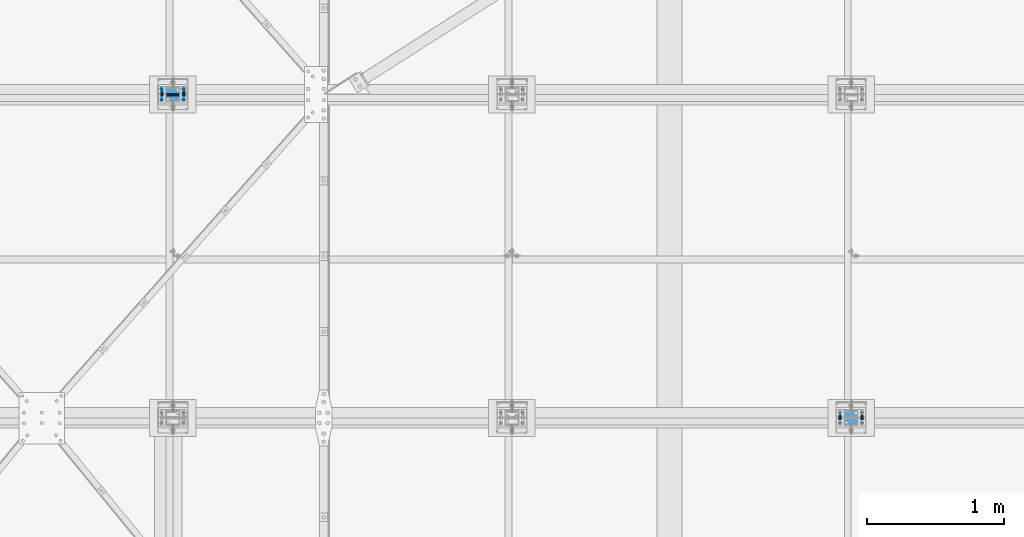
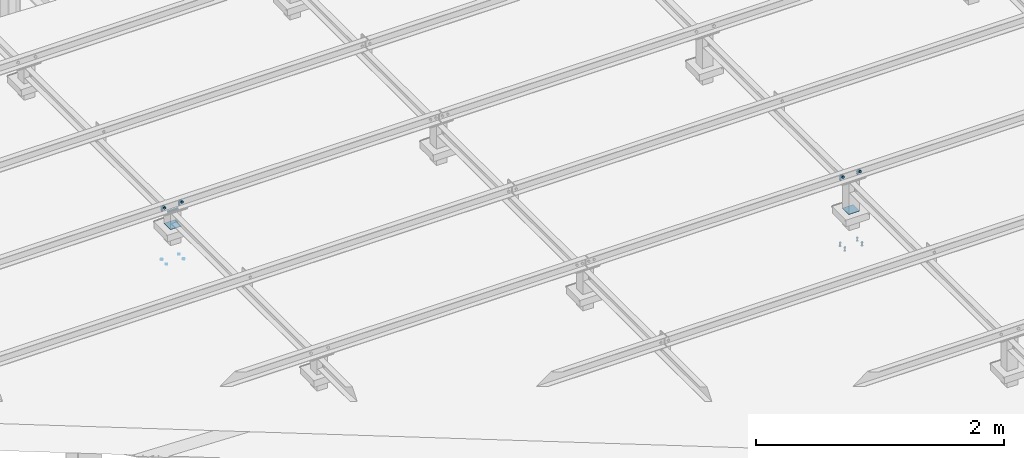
# One storey, part 329 of 3134: 9 mechanical fasteners, 6 elements without a shape of their own.
"""IFC2X3 building model written with IfcOpenShell, lengths in millimetres."""

import ifcopenshell
import ifcopenshell.guid

model = None  # the IFC model being written
_history = None  # IfcOwnerHistory: only IFC2X3 demands one
_inside = {}  # id of a spatial element -> (the spatial element, [elements in it])
_under = {}  # id of a project, library or spatial element -> (it, [spatial elements below it])
_declared = {}  # id of a project -> (the project, [libraries it declares])
_typed = {}  # id of a type object -> (the type object, [elements of that type])
_made_of = {}  # id of a material, layer set ... -> (it, [elements and type objects made of it])


def new_model(schema):
    """Start an empty IFC model of exactly this schema.

    Asked for "IFC4X3", IfcOpenShell would pick the latest addendum, in which some entities
    have other attributes; the version numbers below select the first issue.
    IFC2X3 requires an IfcOwnerHistory on every rooted entity: one is made here for all.
    """
    global model, _history
    if schema == "IFC4X3":
        model = ifcopenshell.file(schema_version=(4, 3, 0, 0))
    else:
        model = ifcopenshell.file(schema=schema)
    _inside.clear()
    _under.clear()
    _declared.clear()
    _typed.clear()
    _made_of.clear()
    _history = None
    if model.schema == "IFC2X3":
        org = make("IfcOrganization", Name="unknown")
        user = make(
            "IfcPersonAndOrganization",
            ThePerson=make("IfcPerson", FamilyName="unknown"),
            TheOrganization=org,
        )
        app = make(
            "IfcApplication",
            ApplicationDeveloper=org,
            Version="unknown",
            ApplicationFullName="unknown",
            ApplicationIdentifier="unknown",
        )
        _history = make(
            "IfcOwnerHistory",
            OwningUser=user,
            OwningApplication=app,
            ChangeAction="ADDED",
            CreationDate=0,
        )
    return model


def make(cls, **values):
    """One entity of the class cls with the attributes given. An attribute that is None is left unset."""
    return model.create_entity(
        cls, **{name: value for name, value in values.items() if value is not None}
    )


def rooted(cls, **values):
    """An entity with a GlobalId (a new one), such as an element, a storey or a relation."""
    return make(cls, GlobalId=ifcopenshell.guid.new(), OwnerHistory=_history, **values)


def si_unit(unit_type, name, prefix=None):
    """IfcSIUnit, for example si_unit("LENGTHUNIT", "METRE", prefix="MILLI")."""
    return make("IfcSIUnit", UnitType=unit_type, Prefix=prefix, Name=name)


def assignment(units):
    """IfcUnitAssignment: the units of a project."""
    return None if units is None else make("IfcUnitAssignment", Units=units)


def point(xyz):
    """IfcCartesianPoint."""
    return None if xyz is None else make("IfcCartesianPoint", Coordinates=xyz)


def direction(xyz):
    """IfcDirection."""
    return None if xyz is None else make("IfcDirection", DirectionRatios=xyz)


def frame(location, z_axis=None, x_axis=None):
    """IfcAxis2Placement3D, a coordinate frame: its origin and axes. An axis left out is left unset."""
    return make(
        "IfcAxis2Placement3D",
        Location=point(location),
        Axis=direction(z_axis),
        RefDirection=direction(x_axis),
    )


def origin_with_axes():
    """The frame at (0, 0, 0) with the z axis (0, 0, 1) and the x axis (1, 0, 0) written out."""
    return frame((0.0, 0.0, 0.0), z_axis=(0.0, 0.0, 1.0), x_axis=(1.0, 0.0, 0.0))


def place(relative_to, where):
    """IfcLocalPlacement: puts the frame where relative to a parent placement (None: the world)."""
    return make(
        "IfcLocalPlacement", PlacementRelTo=relative_to, RelativePlacement=where
    )


def context(
    kind, dimensions, precision=None, world=None, true_north=None, identifier=None
):
    """IfcGeometricRepresentationContext, for example the 3D "Model" context."""
    return make(
        "IfcGeometricRepresentationContext",
        ContextIdentifier=identifier,
        ContextType=kind,
        CoordinateSpaceDimension=dimensions,
        Precision=precision,
        WorldCoordinateSystem=world,
        TrueNorth=true_north,
    )


def subcontext(parent, identifier, kind, view, scale=None):
    """IfcGeometricRepresentationSubContext, for example "Body" below "Model"."""
    return make(
        "IfcGeometricRepresentationSubContext",
        ContextIdentifier=identifier,
        ContextType=kind,
        ParentContext=parent,
        TargetScale=scale,
        TargetView=view,
    )


def project(units=None, contexts=None):
    """IfcProject with its units and contexts."""
    return rooted(
        "IfcProject",
        Name="project",
        RepresentationContexts=contexts,
        UnitsInContext=assignment(units),
    )


def spatial(cls, under=None, at=None, **own):
    """A site, building, storey or space (cls), placed at a placement, below another one or the project."""
    s = rooted(cls, ObjectPlacement=at, **own)
    if under is not None:
        _under.setdefault(under.id(), (under, []))[1].append(s)
    return s


def faces_of(points, faces, orient=None, outer=None):
    """IfcFace entities. A face is a list of loops; a loop is a list of indices into points, from 0.

    orient and outer hold one flag for each loop. By default every Orientation is true, the
    first loop of a face is its IfcFaceOuterBound and the others are IfcFaceBound.
    """
    made = []
    for i, loops in enumerate(faces):
        bounds = []
        for j, loop in enumerate(loops):
            is_outer = j == 0 if outer is None else outer[i][j]
            bounds.append(
                make(
                    "IfcFaceOuterBound" if is_outer else "IfcFaceBound",
                    Bound=make("IfcPolyLoop", Polygon=[points[k] for k in loop]),
                    Orientation=True if orient is None else orient[i][j],
                )
            )
        made.append(make("IfcFace", Bounds=bounds))
    return made


def faceted_brep(points, faces, orient=None, outer=None, voids=None):
    """IfcFacetedBrep: a solid bounded by flat faces; with voids (closed shells), ...WithVoids."""
    shared = [point(p) for p in points]
    hull = make("IfcClosedShell", CfsFaces=faces_of(shared, faces, orient, outer))
    if voids is None:
        return make("IfcFacetedBrep", Outer=hull)
    return make(
        "IfcFacetedBrepWithVoids",
        Outer=hull,
        Voids=[
            make(cls, CfsFaces=faces_of(shared, fs, o, b)) for cls, fs, o, b in voids
        ],
    )


def shape(context_of_items, identifier, shape_type, items):
    """IfcShapeRepresentation: the items that make up one representation, for example the "Body"."""
    return make(
        "IfcShapeRepresentation",
        ContextOfItems=context_of_items,
        RepresentationIdentifier=identifier,
        RepresentationType=shape_type,
        Items=items,
    )


def source(mapping_origin, context_of_items, identifier, shape_type, items):
    """IfcRepresentationMap: a shape defined once, which mapped items show again and again."""
    return make(
        "IfcRepresentationMap",
        MappingOrigin=mapping_origin,
        MappedRepresentation=shape(context_of_items, identifier, shape_type, items),
    )


def transform(
    local_origin,
    x_axis=None,
    y_axis=None,
    z_axis=None,
    scale=None,
    scale2=None,
    scale3=None,
    uniform=True,
):
    """IfcCartesianTransformationOperator3D, or its non-uniform kind. x_axis, y_axis, z_axis: its Axis1, 2, 3."""
    if uniform:
        return make(
            "IfcCartesianTransformationOperator3D",
            Axis1=direction(x_axis),
            Axis2=direction(y_axis),
            LocalOrigin=point(local_origin),
            Scale=scale,
            Axis3=direction(z_axis),
        )
    return make(
        "IfcCartesianTransformationOperator3DnonUniform",
        Axis1=direction(x_axis),
        Axis2=direction(y_axis),
        LocalOrigin=point(local_origin),
        Scale=scale,
        Axis3=direction(z_axis),
        Scale2=scale2,
        Scale3=scale3,
    )


def mapped(mapping_source, mapping_target):
    """IfcMappedItem: shows the shape of a source again, moved by a transform."""
    return make(
        "IfcMappedItem", MappingSource=mapping_source, MappingTarget=mapping_target
    )


def material(Name=None, Category=None):
    """IfcMaterial."""
    return make("IfcMaterial", Name=Name, Category=Category)


def made_of(thing, what):
    """Note that an element or type object is made of a material, layer set ...; save() writes the relation."""
    if what is not None:
        _made_of.setdefault(what.id(), (what, []))[1].append(thing)
    return thing


def type_object(cls, material=None, **own):
    """A type object (cls), such as IfcWallType, which elements share."""
    return made_of(rooted(cls, **own), material)


def element(
    cls,
    number,
    at=None,
    inside=None,
    cuts=None,
    type_object=None,
    material=None,
    context=None,
    identifier="Body",
    shape_type=None,
    held_by="IfcProductDefinitionShape",
    body=None,
    shapes=None,
    **own,
):
    """One element of the class cls, such as IfcWall. Its Tag is "e" and its number.

    at: its placement. inside: the storey or other place that contains it. cuts: it is an
    opening in that element (IfcRelVoidsElement). A single representation is given by context,
    identifier, shape_type and body (its items); several are given by shapes. held_by: the class
    of the entity that holds the representations. save() writes the other relations.
    """
    e = rooted(cls, Tag="e%d" % number, ObjectPlacement=at, **own)
    if body is not None:
        shapes = [shape(context, identifier, shape_type, body)]
    if shapes is not None:
        e.Representation = make(held_by, Representations=shapes)
    if inside is not None:
        _inside.setdefault(inside.id(), (inside, []))[1].append(e)
    if cuts is not None:
        rooted(
            "IfcRelVoidsElement", RelatingBuildingElement=cuts, RelatedOpeningElement=e
        )
    if type_object is not None:
        _typed.setdefault(type_object.id(), (type_object, []))[1].append(e)
    return made_of(e, material)


def aggregate(whole, parts):
    """IfcRelAggregates: a whole, such as a stair, and the parts it consists of."""
    return rooted("IfcRelAggregates", RelatingObject=whole, RelatedObjects=parts)


def save(model, path):
    """Write the relations noted so far, then the file.

    IfcRelAggregates (storeys below a building ...), IfcRelContainedInSpatialStructure (elements
    in a storey), IfcRelDefinesByType, IfcRelAssociatesMaterial and IfcRelDeclares: one each for
    every whole, place, type object, material and project.
    """
    for whole, parts in _under.values():
        aggregate(whole, parts)
    for where, things in _inside.values():
        rooted(
            "IfcRelContainedInSpatialStructure",
            RelatedElements=things,
            RelatingStructure=where,
        )
    for kind, things in _typed.values():
        rooted("IfcRelDefinesByType", RelatedObjects=things, RelatingType=kind)
    for what, things in _made_of.values():
        rooted("IfcRelAssociatesMaterial", RelatedObjects=things, RelatingMaterial=what)
    for by, libraries in _declared.values():
        rooted("IfcRelDeclares", RelatingContext=by, RelatedDefinitions=libraries)
    model.write(path)


model = new_model("IFC2X3")

# Units and contexts
model_context = context("Model", 3, precision=1e-05, world=origin_with_axes())
body_context = subcontext(model_context, "Body", "Model", "MODEL_VIEW")
ifc_project = project(units=[si_unit("LENGTHUNIT", "METRE", prefix="MILLI"), si_unit("AREAUNIT", "SQUARE_METRE"), si_unit("VOLUMEUNIT", "CUBIC_METRE"), si_unit("MASSUNIT", "GRAM", prefix="KILO"), si_unit("TIMEUNIT", "SECOND"), si_unit("PLANEANGLEUNIT", "RADIAN"), si_unit("SOLIDANGLEUNIT", "STERADIAN"), si_unit("THERMODYNAMICTEMPERATUREUNIT", "DEGREE_CELSIUS"), si_unit("LUMINOUSINTENSITYUNIT", "LUMEN")], contexts=[model_context])

# Site, building, storey
site_placement = place(None, origin_with_axes())
site = spatial("IfcSite", under=ifc_project, at=site_placement, CompositionType="ELEMENT")
building_placement = place(site_placement, origin_with_axes())
building = spatial("IfcBuilding", under=site, at=building_placement, Name="Undefined", CompositionType="ELEMENT")
storey_placement = place(building_placement, origin_with_axes())
storey = spatial("IfcBuildingStorey", under=building, at=storey_placement, Name="Undefined", CompositionType="ELEMENT", Elevation=0.0)

# Assembly, mechanical fastener
assembly_1_placement = place(storey_placement, origin_with_axes())
assembly_1 = element("IfcElementAssembly", 1, at=assembly_1_placement, inside=storey, AssemblyPlace="NOTDEFINED", PredefinedType="RIGID_FRAME")
ifc_material_1 = material(Name="8.8")
mechanical_fastener_type = type_object("IfcMechanicalFastenerType", Name="Bolt assembly")
shared_shape_1 = source(origin_with_axes(), body_context, "Body", "Brep", [
    faceted_brep([(10.9696551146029, -14.0, 0.0), (5.48482755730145, -14.0, 9.5), (-5.48482755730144, -14.0, 9.5), (-10.9696551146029, -14.0, 1.34339530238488e-15), (-5.48482755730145, -14.0, -9.5), (5.48482755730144, -14.0, -9.50000000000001), (5.48482755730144, -6.0, -9.50000000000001), (-5.48482755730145, -6.0, -9.5), (-10.9696551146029, -6.0, 1.34339530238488e-15), (-5.48482755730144, -6.0, 9.5), (5.48482755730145, -6.0, 9.5), (10.9696551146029, -6.0, 0.0), (6.0, -6.0, 0.0), (5.19615242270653, -6.0, 3.00000000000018), (2.99999999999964, -6.0, 5.19615242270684), (-6.21801588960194e-13, -6.0, 6.0), (-3.00000000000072, -6.0, 5.19615242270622), (-5.19615242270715, -6.0, 2.9999999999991), (-6.0, -6.0, -1.24360317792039e-12), (-5.19615242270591, -6.0, -3.00000000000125), (-2.99999999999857, -6.0, -5.19615242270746), (1.85874342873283e-12, -6.0, -6.0), (3.00000000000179, -6.0, -5.1961524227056), (5.19615242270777, -6.0, -2.99999999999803), (5.19615242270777, 24.0, -2.99999999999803), (3.00000000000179, 24.0, -5.1961524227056), (1.85874342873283e-12, 24.0, -6.0), (-2.99999999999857, 24.0, -5.19615242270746), (-5.19615242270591, 24.0, -3.00000000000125), (-6.0, 24.0, -1.24360317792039e-12), (-5.19615242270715, 24.0, 2.9999999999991), (-3.00000000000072, 24.0, 5.19615242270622), (-6.21801588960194e-13, 24.0, 6.0), (2.99999999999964, 24.0, 5.19615242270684), (5.19615242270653, 24.0, 3.00000000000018), (6.0, 24.0, 0.0), (10.9696551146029, 6.00000000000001, 0.0), (5.48482755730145, 6.00000000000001, 9.5), (-5.48482755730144, 6.00000000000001, 9.5), (-10.9696551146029, 6.00000000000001, 1.34339530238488e-15), (-5.48482755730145, 6.00000000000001, -9.5), (5.48482755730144, 6.00000000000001, -9.50000000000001), (5.48482755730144, 16.0, -9.50000000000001), (-5.48482755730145, 16.0, -9.5), (-10.9696551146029, 16.0, 1.34339530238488e-15), (-5.48482755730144, 16.0, 9.5), (5.48482755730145, 16.0, 9.5), (10.9696551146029, 16.0, 0.0)], [[[0, 1, 2, 3, 4, 5]], [[6, 7, 8, 9, 10, 11]], [[0, 11, 10, 1]], [[1, 10, 9, 2]], [[2, 9, 8, 3]], [[3, 8, 7, 4]], [[4, 7, 6, 5]], [[5, 6, 11, 0]], [[12, 13, 14, 15, 16, 17, 18, 19, 20, 21, 22, 23]], [[24, 25, 26, 27, 28, 29, 30, 31, 32, 33, 34, 35]], [[12, 35, 34, 13]], [[13, 34, 33, 14]], [[14, 33, 32, 15]], [[15, 32, 31, 16]], [[16, 31, 30, 17]], [[17, 30, 29, 18]], [[18, 29, 28, 19]], [[19, 28, 27, 20]], [[20, 27, 26, 21]], [[21, 26, 25, 22]], [[22, 25, 24, 23]], [[23, 24, 35, 12]], [[36, 37, 38, 39, 40, 41]], [[42, 43, 44, 45, 46, 47]], [[36, 47, 46, 37]], [[37, 46, 45, 38]], [[38, 45, 44, 39]], [[39, 44, 43, 40]], [[40, 43, 42, 41]], [[41, 42, 47, 36]]]),
    faceted_brep([(7.0, -0.1, 0.0), (6.06217782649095, -0.1, 3.50000000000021), (3.49999999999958, -0.1, 6.06217782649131), (-7.25435187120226e-13, -0.1, 7.0), (-3.50000000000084, -0.1, 6.06217782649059), (-6.06217782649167, -0.1, 3.49999999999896), (-7.0, -0.1, -1.45087037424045e-12), (-6.06217782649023, -0.1, -3.50000000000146), (-3.49999999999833, -0.1, -6.06217782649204), (2.1685340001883e-12, -0.1, -7.0), (3.50000000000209, -0.1, -6.06217782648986), (6.0621778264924, -0.1, -3.4999999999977), (6.0621778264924, 6.00000000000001, -3.4999999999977), (3.50000000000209, 6.00000000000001, -6.06217782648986), (2.1685340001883e-12, 6.00000000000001, -7.0), (-3.49999999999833, 6.00000000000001, -6.06217782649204), (-6.06217782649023, 6.00000000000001, -3.50000000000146), (-7.0, 6.00000000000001, -1.45087037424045e-12), (-6.06217782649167, 6.00000000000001, 3.49999999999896), (-3.50000000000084, 6.00000000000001, 6.06217782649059), (-7.25435187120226e-13, 6.00000000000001, 7.0), (3.49999999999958, 6.00000000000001, 6.06217782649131), (6.06217782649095, 6.00000000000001, 3.50000000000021), (7.0, 6.00000000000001, 0.0), (7.0, -5.9, 0.0), (6.06217782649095, -5.9, 3.50000000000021), (3.49999999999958, -5.9, 6.06217782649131), (-7.25435187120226e-13, -5.9, 7.0), (-3.50000000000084, -5.9, 6.06217782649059), (-6.06217782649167, -5.9, 3.49999999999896), (-7.0, -5.9, -1.45087037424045e-12), (-6.06217782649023, -5.9, -3.50000000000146), (-3.49999999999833, -5.9, -6.06217782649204), (2.1685340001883e-12, -5.9, -7.0), (3.50000000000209, -5.9, -6.06217782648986), (6.0621778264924, -5.9, -3.4999999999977), (6.0621778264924, 0.0999999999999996, -3.4999999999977), (3.50000000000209, 0.0999999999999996, -6.06217782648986), (2.1685340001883e-12, 0.0999999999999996, -7.0), (-3.49999999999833, 0.0999999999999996, -6.06217782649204), (-6.06217782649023, 0.0999999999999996, -3.50000000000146), (-7.0, 0.0999999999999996, -1.45087037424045e-12), (-6.06217782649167, 0.0999999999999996, 3.49999999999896), (-3.50000000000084, 0.0999999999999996, 6.06217782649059), (-7.25435187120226e-13, 0.0999999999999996, 7.0), (3.49999999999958, 0.0999999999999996, 6.06217782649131), (6.06217782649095, 0.0999999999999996, 3.50000000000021), (7.0, 0.0999999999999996, 0.0)], [[[0, 1, 2, 3, 4, 5, 6, 7, 8, 9, 10, 11]], [[12, 13, 14, 15, 16, 17, 18, 19, 20, 21, 22, 23]], [[0, 23, 22, 1]], [[1, 22, 21, 2]], [[2, 21, 20, 3]], [[3, 20, 19, 4]], [[4, 19, 18, 5]], [[5, 18, 17, 6]], [[6, 17, 16, 7]], [[7, 16, 15, 8]], [[8, 15, 14, 9]], [[9, 14, 13, 10]], [[10, 13, 12, 11]], [[11, 12, 23, 0]], [[24, 25, 26, 27, 28, 29, 30, 31, 32, 33, 34, 35]], [[36, 37, 38, 39, 40, 41, 42, 43, 44, 45, 46, 47]], [[24, 47, 46, 25]], [[25, 46, 45, 26]], [[26, 45, 44, 27]], [[27, 44, 43, 28]], [[28, 43, 42, 29]], [[29, 42, 41, 30]], [[30, 41, 40, 31]], [[31, 40, 39, 32]], [[32, 39, 38, 33]], [[33, 38, 37, 34]], [[34, 37, 36, 35]], [[35, 36, 47, 24]]]),
])
mechanical_fastener_1_placement = place(assembly_1_placement, frame((70600.0, 10045.0, 5850.0), z_axis=(1.0, 0.0, 0.0), x_axis=(0.0, -1.0, 0.0)))
mechanical_fastener_1 = element("IfcMechanicalFastener", 2, at=mechanical_fastener_1_placement, type_object=mechanical_fastener_type, material=ifc_material_1, Name="Bolt assembly", NominalDiameter=12.0, NominalLength=30.0, context=body_context, shape_type="MappedRepresentation", body=[
    mapped(shared_shape_1, transform((0.0, -5.32963895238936e-10, -79.9999999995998))),
    mapped(shared_shape_1, transform((0.0, 5.3114490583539e-10, 79.9999999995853))),
])

assembly_2_placement = place(storey_placement, origin_with_axes())
assembly_2 = element("IfcElementAssembly", 3, at=assembly_2_placement, inside=storey, AssemblyPlace="NOTDEFINED", PredefinedType="RIGID_FRAME")
mechanical_fastener_2_placement = place(assembly_2_placement, frame((75550.0, 7685.0, 5850.0), z_axis=(1.0, 0.0, 0.0), x_axis=(0.0, -1.0, 0.0)))
mechanical_fastener_2 = element("IfcMechanicalFastener", 4, at=mechanical_fastener_2_placement, type_object=mechanical_fastener_type, material=ifc_material_1, Name="Bolt assembly", NominalDiameter=12.0, NominalLength=30.0, context=body_context, shape_type="MappedRepresentation", body=[
    mapped(shared_shape_1, transform((0.0, -5.32963895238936e-10, -79.9999999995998))),
    mapped(shared_shape_1, transform((0.0, 5.3114490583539e-10, 79.9999999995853))),
])

assembly_3_placement = place(storey_placement, origin_with_axes())
assembly_3 = element("IfcElementAssembly", 5, at=assembly_3_placement, inside=storey, AssemblyPlace="NOTDEFINED", PredefinedType="RIGID_FRAME")
shared_shape_2 = source(origin_with_axes(), body_context, "Body", "Brep", [
    faceted_brep([(7.0, 13.0000253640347, 0.0), (6.06217782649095, 13.0000253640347, 3.50000000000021), (3.49999999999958, 13.0000253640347, 6.06217782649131), (-7.25435187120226e-13, 13.0000253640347, 7.0), (-3.50000000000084, 13.0000253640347, 6.06217782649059), (-6.06217782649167, 13.0000253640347, 3.49999999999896), (-7.0, 13.0000253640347, -1.45087037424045e-12), (-6.06217782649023, 13.0000253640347, -3.50000000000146), (-3.49999999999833, 13.0000253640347, -6.06217782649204), (2.1685340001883e-12, 13.0000253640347, -7.0), (3.50000000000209, 13.0000253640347, -6.06217782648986), (6.0621778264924, 13.0000253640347, -3.4999999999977), (6.0621778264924, 15.0999999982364, -3.4999999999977), (3.50000000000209, 15.0999999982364, -6.06217782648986), (2.1685340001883e-12, 15.0999999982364, -7.0), (-3.49999999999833, 15.0999999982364, -6.06217782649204), (-6.06217782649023, 15.0999999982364, -3.50000000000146), (-7.0, 15.0999999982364, -1.45087037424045e-12), (-6.06217782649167, 15.0999999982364, 3.49999999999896), (-3.50000000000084, 15.0999999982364, 6.06217782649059), (-7.25435187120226e-13, 15.0999999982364, 7.0), (3.49999999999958, 15.0999999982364, 6.06217782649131), (6.06217782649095, 15.0999999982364, 3.50000000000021), (7.0, 15.0999999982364, 0.0)], [[[0, 1, 2, 3, 4, 5, 6, 7, 8, 9, 10, 11]], [[12, 13, 14, 15, 16, 17, 18, 19, 20, 21, 22, 23]], [[0, 23, 22, 1]], [[1, 22, 21, 2]], [[2, 21, 20, 3]], [[3, 20, 19, 4]], [[4, 19, 18, 5]], [[5, 18, 17, 6]], [[6, 17, 16, 7]], [[7, 16, 15, 8]], [[8, 15, 14, 9]], [[9, 14, 13, 10]], [[10, 13, 12, 11]], [[11, 12, 23, 0]]]),
])
mechanical_fastener_3_placement = place(assembly_3_placement, frame((70599.3451187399, 10048.0, 5332.4572055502), z_axis=(-0.99951962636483, 0.0, 0.0309922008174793), x_axis=(0.0, -1.0, 0.0)))
mechanical_fastener_3 = element("IfcMechanicalFastener", 6, at=mechanical_fastener_3_placement, type_object=mechanical_fastener_type, material=ifc_material_1, Name="Bolt assembly", NominalDiameter=12.0, NominalLength=2.0, context=body_context, shape_type="MappedRepresentation", body=[
    mapped(shared_shape_2, transform((0.0, -5.32963895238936e-10, -79.9999999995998))),
    mapped(shared_shape_2, transform((76.0, -5.32963895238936e-10, -79.9999999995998))),
    mapped(shared_shape_2, transform((0.0, 5.3114490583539e-10, 79.9999999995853))),
    mapped(shared_shape_2, transform((76.0, 5.3114490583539e-10, 79.9999999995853))),
])
aggregate(assembly_3, [mechanical_fastener_3])

# Assembly, mechanical fasteners
assembly_4_placement = place(storey_placement, origin_with_axes())
assembly_4 = element("IfcElementAssembly", 7, at=assembly_4_placement, inside=storey, AssemblyPlace="NOTDEFINED", PredefinedType="RIGID_FRAME")
shared_shape_3 = source(origin_with_axes(), body_context, "Body", "Brep", [
    faceted_brep([(9.0, -50.0, 0.0), (7.79422863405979, -50.0, 4.50000000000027), (4.49999999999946, -50.0, 7.79422863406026), (-9.3270238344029e-13, -50.0, 9.0), (-4.50000000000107, -50.0, 7.79422863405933), (-7.79422863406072, -50.0, 4.49999999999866), (-9.0, -50.0, -1.86540476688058e-12), (-7.79422863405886, -50.0, -4.50000000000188), (-4.49999999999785, -50.0, -7.79422863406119), (2.78811514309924e-12, -50.0, -9.0), (4.50000000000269, -50.0, -7.7942286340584), (7.79422863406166, -50.0, -4.49999999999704), (7.79422863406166, 50.1, -4.49999999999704), (4.50000000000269, 50.1, -7.7942286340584), (2.78811514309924e-12, 50.1, -9.0), (-4.49999999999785, 50.1, -7.79422863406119), (-7.79422863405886, 50.1, -4.50000000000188), (-9.0, 50.1, -1.86540476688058e-12), (-7.79422863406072, 50.1, 4.49999999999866), (-4.50000000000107, 50.1, 7.79422863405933), (-9.3270238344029e-13, 50.1, 9.0), (4.49999999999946, 50.1, 7.79422863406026), (7.79422863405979, 50.1, 4.50000000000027), (9.0, 50.1, 0.0)], [[[0, 1, 2, 3, 4, 5, 6, 7, 8, 9, 10, 11]], [[12, 13, 14, 15, 16, 17, 18, 19, 20, 21, 22, 23]], [[0, 23, 22, 1]], [[1, 22, 21, 2]], [[2, 21, 20, 3]], [[3, 20, 19, 4]], [[4, 19, 18, 5]], [[5, 18, 17, 6]], [[6, 17, 16, 7]], [[7, 16, 15, 8]], [[8, 15, 14, 9]], [[9, 14, 13, 10]], [[10, 13, 12, 11]], [[11, 12, 23, 0]]]),
])
mechanical_fastener_4_placement = place(assembly_4_placement, frame((70600.0, 10010.0, 5830.0), z_axis=(0.0, 1.0, 0.0), x_axis=(0.0, 0.0, 1.0)))
mechanical_fastener_4 = element("IfcMechanicalFastener", 8, at=mechanical_fastener_4_placement, type_object=mechanical_fastener_type, material=ifc_material_1, Name="Bolt assembly", NominalDiameter=16.0, NominalLength=100.0, context=body_context, shape_type="MappedRepresentation", body=[
    mapped(shared_shape_3, transform((0.0, 0.0, 0.0))),
])
ifc_material_2 = material(Name="6.8")
shared_shape_4 = source(origin_with_axes(), body_context, "Body", "Brep", [
    faceted_brep([(51.5, 1.36424205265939e-12, 50.0), (51.3858192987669, 1.36424205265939e-12, 50.5740251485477), (51.0606601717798, 1.36424205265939e-12, 51.0606601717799), (50.5740251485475, 1.36424205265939e-12, 51.385819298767), (-50.0000000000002, 1.36424205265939e-12, 51.5), (-50.7500000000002, 1.36424205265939e-12, 51.2990381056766), (-51.2990381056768, 1.36424205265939e-12, 50.7499999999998), (-51.5, 1.36424205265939e-12, 49.9999999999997), (-51.5, 1.36424205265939e-12, -50.0000000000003), (-51.2990381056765, 1.36424205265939e-12, -50.7500000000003), (-50.7499999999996, 1.36424205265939e-12, -51.2990381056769), (-49.9999999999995, 1.36424205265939e-12, -51.5), (50.0000000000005, 1.36424205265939e-12, -51.5), (50.7500000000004, 1.36424205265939e-12, -51.2990381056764), (51.2990381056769, 1.36424205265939e-12, -50.7499999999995), (51.5, 1.36424205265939e-12, -49.9999999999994), (51.5, 5.10000000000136, -49.9999999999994), (51.2990381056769, 5.10000000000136, -50.7499999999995), (50.7500000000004, 5.10000000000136, -51.2990381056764), (50.0000000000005, 5.10000000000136, -51.5), (-49.9999999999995, 5.10000000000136, -51.5), (-50.7499999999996, 5.10000000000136, -51.2990381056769), (-51.2990381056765, 5.10000000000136, -50.7500000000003), (-51.5, 5.10000000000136, -50.0000000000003), (-51.5, 5.10000000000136, 49.9999999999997), (-51.2990381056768, 5.10000000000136, 50.7499999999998), (-50.7500000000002, 5.10000000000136, 51.2990381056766), (-50.0000000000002, 5.10000000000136, 51.5), (50.5740251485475, 5.10000000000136, 51.385819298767), (51.0606601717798, 5.10000000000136, 51.0606601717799), (51.3858192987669, 5.10000000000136, 50.5740251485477), (51.5, 5.10000000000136, 50.0)], [[[0, 1, 2, 3, 4, 5, 6, 7, 8, 9, 10, 11, 12, 13, 14, 15]], [[16, 17, 18, 19, 20, 21, 22, 23, 24, 25, 26, 27, 28, 29, 30, 31]], [[0, 31, 30, 1]], [[1, 30, 29, 2]], [[2, 29, 28, 3]], [[3, 28, 27, 4]], [[4, 27, 26, 5]], [[5, 26, 25, 6]], [[6, 25, 24, 7]], [[7, 24, 23, 8]], [[8, 23, 22, 9]], [[9, 22, 21, 10]], [[10, 21, 20, 11]], [[11, 20, 19, 12]], [[12, 19, 18, 13]], [[13, 18, 17, 14]], [[14, 17, 16, 15]], [[15, 16, 31, 0]]]),
])
mechanical_fastener_5_placement = place(assembly_4_placement, frame((70600.0, 10010.0, 5687.16), z_axis=(0.0, -1.0, 0.0), x_axis=(-1.0, 0.0, 0.0)))
mechanical_fastener_5 = element("IfcMechanicalFastener", 9, at=mechanical_fastener_5_placement, type_object=mechanical_fastener_type, material=ifc_material_2, Name="Bolt assembly", NominalDiameter=10.0, NominalLength=5.0, context=body_context, shape_type="MappedRepresentation", body=[
    mapped(shared_shape_4, transform((0.0, 0.0, 0.0))),
])
aggregate(assembly_4, [mechanical_fastener_4, mechanical_fastener_5])

# Assembly, mechanical fastener
assembly_5_placement = place(storey_placement, origin_with_axes())
assembly_5 = element("IfcElementAssembly", 10, at=assembly_5_placement, inside=storey, AssemblyPlace="NOTDEFINED", PredefinedType="RIGID_FRAME")
mechanical_fastener_6_placement = place(assembly_5_placement, frame((75550.0, 7650.0, 5533.71), z_axis=(0.0, -1.0, 0.0), x_axis=(-1.0, 0.0, 0.0)))
mechanical_fastener_6 = element("IfcMechanicalFastener", 11, at=mechanical_fastener_6_placement, type_object=mechanical_fastener_type, material=ifc_material_2, Name="Bolt assembly", NominalDiameter=10.0, NominalLength=5.0, context=body_context, shape_type="MappedRepresentation", body=[
    mapped(shared_shape_4, transform((0.0, 0.0, 0.0))),
])
aggregate(assembly_5, [mechanical_fastener_6])

# Mechanical fastener
shared_shape_5 = source(origin_with_axes(), body_context, "Body", "Brep", [
    faceted_brep([(10.9696551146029, -12.0, 0.0), (5.48482755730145, -12.0, 9.5), (-5.48482755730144, -12.0, 9.5), (-10.9696551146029, -12.0, 1.34339530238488e-15), (-5.48482755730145, -12.0, -9.5), (5.48482755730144, -12.0, -9.50000000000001), (5.48482755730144, -4.0, -9.50000000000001), (-5.48482755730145, -4.0, -9.5), (-10.9696551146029, -4.0, 1.34339530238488e-15), (-5.48482755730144, -4.0, 9.5), (5.48482755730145, -4.0, 9.5), (10.9696551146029, -4.0, 0.0), (6.0, -4.0, 0.0), (5.19615242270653, -4.0, 3.00000000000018), (2.99999999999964, -4.0, 5.19615242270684), (-6.21801588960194e-13, -4.0, 6.0), (-3.00000000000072, -4.0, 5.19615242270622), (-5.19615242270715, -4.0, 2.9999999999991), (-6.0, -4.0, -1.24360317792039e-12), (-5.19615242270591, -4.0, -3.00000000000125), (-2.99999999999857, -4.0, -5.19615242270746), (1.85874342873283e-12, -4.0, -6.0), (3.00000000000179, -4.0, -5.1961524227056), (5.19615242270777, -4.0, -2.99999999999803), (5.19615242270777, 21.0, -2.99999999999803), (3.00000000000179, 21.0, -5.1961524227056), (1.85874342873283e-12, 21.0, -6.0), (-2.99999999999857, 21.0, -5.19615242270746), (-5.19615242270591, 21.0, -3.00000000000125), (-6.0, 21.0, -1.24360317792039e-12), (-5.19615242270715, 21.0, 2.9999999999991), (-3.00000000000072, 21.0, 5.19615242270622), (-6.21801588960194e-13, 21.0, 6.0), (2.99999999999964, 21.0, 5.19615242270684), (5.19615242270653, 21.0, 3.00000000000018), (6.0, 21.0, 0.0), (10.9696551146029, 6.00000000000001, 0.0), (5.48482755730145, 6.00000000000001, 9.5), (-5.48482755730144, 6.00000000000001, 9.5), (-10.9696551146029, 6.00000000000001, 1.34339530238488e-15), (-5.48482755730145, 6.00000000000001, -9.5), (5.48482755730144, 6.00000000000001, -9.50000000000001), (5.48482755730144, 16.0, -9.50000000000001), (-5.48482755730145, 16.0, -9.5), (-10.9696551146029, 16.0, 1.34339530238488e-15), (-5.48482755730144, 16.0, 9.5), (5.48482755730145, 16.0, 9.5), (10.9696551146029, 16.0, 0.0)], [[[0, 1, 2, 3, 4, 5]], [[6, 7, 8, 9, 10, 11]], [[0, 11, 10, 1]], [[1, 10, 9, 2]], [[2, 9, 8, 3]], [[3, 8, 7, 4]], [[4, 7, 6, 5]], [[5, 6, 11, 0]], [[12, 13, 14, 15, 16, 17, 18, 19, 20, 21, 22, 23]], [[24, 25, 26, 27, 28, 29, 30, 31, 32, 33, 34, 35]], [[12, 35, 34, 13]], [[13, 34, 33, 14]], [[14, 33, 32, 15]], [[15, 32, 31, 16]], [[16, 31, 30, 17]], [[17, 30, 29, 18]], [[18, 29, 28, 19]], [[19, 28, 27, 20]], [[20, 27, 26, 21]], [[21, 26, 25, 22]], [[22, 25, 24, 23]], [[23, 24, 35, 12]], [[36, 37, 38, 39, 40, 41]], [[42, 43, 44, 45, 46, 47]], [[36, 47, 46, 37]], [[37, 46, 45, 38]], [[38, 45, 44, 39]], [[39, 44, 43, 40]], [[40, 43, 42, 41]], [[41, 42, 47, 36]]]),
    faceted_brep([(7.0, -3.9, 0.0), (6.06217782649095, -3.9, 3.50000000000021), (3.49999999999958, -3.9, 6.06217782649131), (-7.25435187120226e-13, -3.9, 7.0), (-3.50000000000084, -3.9, 6.06217782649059), (-6.06217782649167, -3.9, 3.49999999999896), (-7.0, -3.9, -1.45087037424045e-12), (-6.06217782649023, -3.9, -3.50000000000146), (-3.49999999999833, -3.9, -6.06217782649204), (2.1685340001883e-12, -3.9, -7.0), (3.50000000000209, -3.9, -6.06217782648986), (6.0621778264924, -3.9, -3.4999999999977), (6.0621778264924, 0.0999999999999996, -3.4999999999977), (3.50000000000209, 0.0999999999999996, -6.06217782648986), (2.1685340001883e-12, 0.0999999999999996, -7.0), (-3.49999999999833, 0.0999999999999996, -6.06217782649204), (-6.06217782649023, 0.0999999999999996, -3.50000000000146), (-7.0, 0.0999999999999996, -1.45087037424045e-12), (-6.06217782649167, 0.0999999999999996, 3.49999999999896), (-3.50000000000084, 0.0999999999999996, 6.06217782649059), (-7.25435187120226e-13, 0.0999999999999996, 7.0), (3.49999999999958, 0.0999999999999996, 6.06217782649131), (6.06217782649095, 0.0999999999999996, 3.50000000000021), (7.0, 0.0999999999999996, 0.0), (7.0, -0.1, 0.0), (6.06217782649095, -0.1, 3.50000000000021), (3.49999999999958, -0.1, 6.06217782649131), (-7.25435187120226e-13, -0.1, 7.0), (-3.50000000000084, -0.1, 6.06217782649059), (-6.06217782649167, -0.1, 3.49999999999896), (-7.0, -0.1, -1.45087037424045e-12), (-6.06217782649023, -0.1, -3.50000000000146), (-3.49999999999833, -0.1, -6.06217782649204), (2.1685340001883e-12, -0.1, -7.0), (3.50000000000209, -0.1, -6.06217782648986), (6.0621778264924, -0.1, -3.4999999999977), (6.0621778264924, 6.00000000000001, -3.4999999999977), (3.50000000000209, 6.00000000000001, -6.06217782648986), (2.1685340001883e-12, 6.00000000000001, -7.0), (-3.49999999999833, 6.00000000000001, -6.06217782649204), (-6.06217782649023, 6.00000000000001, -3.50000000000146), (-7.0, 6.00000000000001, -1.45087037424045e-12), (-6.06217782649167, 6.00000000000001, 3.49999999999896), (-3.50000000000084, 6.00000000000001, 6.06217782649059), (-7.25435187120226e-13, 6.00000000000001, 7.0), (3.49999999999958, 6.00000000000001, 6.06217782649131), (6.06217782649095, 6.00000000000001, 3.50000000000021), (7.0, 6.00000000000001, 0.0)], [[[0, 1, 2, 3, 4, 5, 6, 7, 8, 9, 10, 11]], [[12, 13, 14, 15, 16, 17, 18, 19, 20, 21, 22, 23]], [[0, 23, 22, 1]], [[1, 22, 21, 2]], [[2, 21, 20, 3]], [[3, 20, 19, 4]], [[4, 19, 18, 5]], [[5, 18, 17, 6]], [[6, 17, 16, 7]], [[7, 16, 15, 8]], [[8, 15, 14, 9]], [[9, 14, 13, 10]], [[10, 13, 12, 11]], [[11, 12, 23, 0]], [[24, 25, 26, 27, 28, 29, 30, 31, 32, 33, 34, 35]], [[36, 37, 38, 39, 40, 41, 42, 43, 44, 45, 46, 47]], [[24, 47, 46, 25]], [[25, 46, 45, 26]], [[26, 45, 44, 27]], [[27, 44, 43, 28]], [[28, 43, 42, 29]], [[29, 42, 41, 30]], [[30, 41, 40, 31]], [[31, 40, 39, 32]], [[32, 39, 38, 33]], [[33, 38, 37, 34]], [[34, 37, 36, 35]], [[35, 36, 47, 24]]]),
])
mechanical_fastener_7_placement = place(assembly_1_placement, frame((70600.0, 10010.0, 5885.0), z_axis=(1.0, 0.0, 0.0), x_axis=(0.0, 0.0, -1.0)))
mechanical_fastener_7 = element("IfcMechanicalFastener", 12, at=mechanical_fastener_7_placement, type_object=mechanical_fastener_type, material=ifc_material_1, Name="Bolt assembly", NominalDiameter=12.0, NominalLength=25.0, context=body_context, shape_type="MappedRepresentation", body=[
    mapped(shared_shape_5, transform((0.0, -5.32963895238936e-10, -79.9999999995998))),
    mapped(shared_shape_5, transform((0.0, 5.3114490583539e-10, 79.9999999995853))),
])

aggregate(assembly_1, [mechanical_fastener_7, mechanical_fastener_1])

mechanical_fastener_8_placement = place(assembly_2_placement, frame((75550.0, 7650.0, 5885.0), z_axis=(1.0, 0.0, 0.0), x_axis=(0.0, 0.0, -1.0)))
mechanical_fastener_8 = element("IfcMechanicalFastener", 13, at=mechanical_fastener_8_placement, type_object=mechanical_fastener_type, material=ifc_material_1, Name="Bolt assembly", NominalDiameter=12.0, NominalLength=25.0, context=body_context, shape_type="MappedRepresentation", body=[
    mapped(shared_shape_5, transform((0.0, -5.32963895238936e-10, -79.9999999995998))),
    mapped(shared_shape_5, transform((0.0, 5.3114490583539e-10, 79.9999999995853))),
])

aggregate(assembly_2, [mechanical_fastener_8, mechanical_fastener_2])

# Assembly, mechanical fastener
assembly_6_placement = place(storey_placement, origin_with_axes())
assembly_6 = element("IfcElementAssembly", 14, at=assembly_6_placement, inside=storey, Name="300", AssemblyPlace="NOTDEFINED", PredefinedType="RIGID_FRAME")
shared_shape_6 = source(origin_with_axes(), body_context, "Body", "Brep", [
    faceted_brep([(10.9696551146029, -10.1954959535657, 0.0), (5.48482755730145, -10.1954959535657, 9.5), (-5.48482755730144, -10.1954959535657, 9.5), (-10.9696551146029, -10.1954959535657, 1.34339530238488e-15), (-5.48482755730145, -10.1954959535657, -9.5), (5.48482755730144, -10.1954959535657, -9.50000000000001), (5.48482755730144, -2.19549595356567, -9.50000000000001), (-5.48482755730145, -2.19549595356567, -9.5), (-10.9696551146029, -2.19549595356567, 1.34339530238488e-15), (-5.48482755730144, -2.19549595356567, 9.5), (5.48482755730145, -2.19549595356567, 9.5), (10.9696551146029, -2.19549595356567, 0.0), (6.0, -2.19549595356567, 0.0), (5.19615242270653, -2.19549595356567, 3.00000000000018), (2.99999999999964, -2.19549595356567, 5.19615242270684), (-6.21801588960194e-13, -2.19549595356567, 6.0), (-3.00000000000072, -2.19549595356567, 5.19615242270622), (-5.19615242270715, -2.19549595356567, 2.9999999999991), (-6.0, -2.19549595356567, -1.24360317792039e-12), (-5.19615242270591, -2.19549595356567, -3.00000000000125), (-2.99999999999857, -2.19549595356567, -5.19615242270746), (1.85874342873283e-12, -2.19549595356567, -6.0), (3.00000000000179, -2.19549595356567, -5.1961524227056), (5.19615242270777, -2.19549595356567, -2.99999999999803), (5.19615242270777, 32.8045040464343, -2.99999999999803), (3.00000000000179, 32.8045040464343, -5.1961524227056), (1.85874342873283e-12, 32.8045040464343, -6.0), (-2.99999999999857, 32.8045040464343, -5.19615242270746), (-5.19615242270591, 32.8045040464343, -3.00000000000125), (-6.0, 32.8045040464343, -1.24360317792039e-12), (-5.19615242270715, 32.8045040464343, 2.9999999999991), (-3.00000000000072, 32.8045040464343, 5.19615242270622), (-6.21801588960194e-13, 32.8045040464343, 6.0), (2.99999999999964, 32.8045040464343, 5.19615242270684), (5.19615242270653, 32.8045040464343, 3.00000000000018), (6.0, 32.8045040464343, 0.0), (10.9696551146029, 17.0008987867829, 0.0), (5.48482755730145, 17.0008987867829, 9.5), (-5.48482755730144, 17.0008987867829, 9.5), (-10.9696551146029, 17.0008987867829, 1.34339530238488e-15), (-5.48482755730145, 17.0008987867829, -9.5), (5.48482755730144, 17.0008987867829, -9.50000000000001), (5.48482755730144, 27.0008987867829, -9.50000000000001), (-5.48482755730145, 27.0008987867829, -9.5), (-10.9696551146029, 27.0008987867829, 1.34339530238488e-15), (-5.48482755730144, 27.0008987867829, 9.5), (5.48482755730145, 27.0008987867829, 9.5), (10.9696551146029, 27.0008987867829, 0.0)], [[[0, 1, 2, 3, 4, 5]], [[6, 7, 8, 9, 10, 11]], [[0, 11, 10, 1]], [[1, 10, 9, 2]], [[2, 9, 8, 3]], [[3, 8, 7, 4]], [[4, 7, 6, 5]], [[5, 6, 11, 0]], [[12, 13, 14, 15, 16, 17, 18, 19, 20, 21, 22, 23]], [[24, 25, 26, 27, 28, 29, 30, 31, 32, 33, 34, 35]], [[12, 35, 34, 13]], [[13, 34, 33, 14]], [[14, 33, 32, 15]], [[15, 32, 31, 16]], [[16, 31, 30, 17]], [[17, 30, 29, 18]], [[18, 29, 28, 19]], [[19, 28, 27, 20]], [[20, 27, 26, 21]], [[21, 26, 25, 22]], [[22, 25, 24, 23]], [[23, 24, 35, 12]], [[36, 37, 38, 39, 40, 41]], [[42, 43, 44, 45, 46, 47]], [[36, 47, 46, 37]], [[37, 46, 45, 38]], [[38, 45, 44, 39]], [[39, 44, 43, 40]], [[40, 43, 42, 41]], [[41, 42, 47, 36]]]),
    faceted_brep([(7.0, 8.90089878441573, 0.0), (6.06217782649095, 8.90089878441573, 3.50000000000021), (3.49999999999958, 8.90089878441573, 6.06217782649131), (-7.25435187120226e-13, 8.90089878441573, 7.0), (-3.50000000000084, 8.90089878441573, 6.06217782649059), (-6.06217782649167, 8.90089878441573, 3.49999999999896), (-7.0, 8.90089878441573, -1.45087037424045e-12), (-6.06217782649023, 8.90089878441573, -3.50000000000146), (-3.49999999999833, 8.90089878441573, -6.06217782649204), (2.1685340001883e-12, 8.90089878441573, -7.0), (3.50000000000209, 8.90089878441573, -6.06217782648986), (6.0621778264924, 8.90089878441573, -3.4999999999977), (6.0621778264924, 17.0008987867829, -3.4999999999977), (3.50000000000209, 17.0008987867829, -6.06217782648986), (2.1685340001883e-12, 17.0008987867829, -7.0), (-3.49999999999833, 17.0008987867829, -6.06217782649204), (-6.06217782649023, 17.0008987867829, -3.50000000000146), (-7.0, 17.0008987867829, -1.45087037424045e-12), (-6.06217782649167, 17.0008987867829, 3.49999999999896), (-3.50000000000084, 17.0008987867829, 6.06217782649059), (-7.25435187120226e-13, 17.0008987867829, 7.0), (3.49999999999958, 17.0008987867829, 6.06217782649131), (6.06217782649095, 17.0008987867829, 3.50000000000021), (7.0, 17.0008987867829, 0.0), (7.0, -2.09549595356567, 0.0), (6.06217782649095, -2.09549595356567, 3.50000000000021), (3.49999999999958, -2.09549595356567, 6.06217782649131), (-7.25435187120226e-13, -2.09549595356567, 7.0), (-3.50000000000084, -2.09549595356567, 6.06217782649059), (-6.06217782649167, -2.09549595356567, 3.49999999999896), (-7.0, -2.09549595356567, -1.45087037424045e-12), (-6.06217782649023, -2.09549595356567, -3.50000000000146), (-3.49999999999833, -2.09549595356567, -6.06217782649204), (2.1685340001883e-12, -2.09549595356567, -7.0), (3.50000000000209, -2.09549595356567, -6.06217782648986), (6.0621778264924, -2.09549595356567, -3.4999999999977), (6.0621778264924, 7.10450385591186, -3.4999999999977), (3.50000000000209, 7.10450385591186, -6.06217782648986), (2.1685340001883e-12, 7.10450385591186, -7.0), (-3.49999999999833, 7.10450385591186, -6.06217782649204), (-6.06217782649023, 7.10450385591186, -3.50000000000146), (-7.0, 7.10450385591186, -1.45087037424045e-12), (-6.06217782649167, 7.10450385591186, 3.49999999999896), (-3.50000000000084, 7.10450385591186, 6.06217782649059), (-7.25435187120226e-13, 7.10450385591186, 7.0), (3.49999999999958, 7.10450385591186, 6.06217782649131), (6.06217782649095, 7.10450385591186, 3.50000000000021), (7.0, 7.10450385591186, 0.0)], [[[0, 1, 2, 3, 4, 5, 6, 7, 8, 9, 10, 11]], [[12, 13, 14, 15, 16, 17, 18, 19, 20, 21, 22, 23]], [[0, 23, 22, 1]], [[1, 22, 21, 2]], [[2, 21, 20, 3]], [[3, 20, 19, 4]], [[4, 19, 18, 5]], [[5, 18, 17, 6]], [[6, 17, 16, 7]], [[7, 16, 15, 8]], [[8, 15, 14, 9]], [[9, 14, 13, 10]], [[10, 13, 12, 11]], [[11, 12, 23, 0]], [[24, 25, 26, 27, 28, 29, 30, 31, 32, 33, 34, 35]], [[36, 37, 38, 39, 40, 41, 42, 43, 44, 45, 46, 47]], [[24, 47, 46, 25]], [[25, 46, 45, 26]], [[26, 45, 44, 27]], [[27, 44, 43, 28]], [[28, 43, 42, 29]], [[29, 42, 41, 30]], [[30, 41, 40, 31]], [[31, 40, 39, 32]], [[32, 39, 38, 33]], [[33, 38, 37, 34]], [[34, 37, 36, 35]], [[35, 36, 47, 24]]]),
])
mechanical_fastener_9_placement = place(assembly_6_placement, frame((75549.5351187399, 7688.0, 5185.0072055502), z_axis=(-0.99951962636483, 0.0, 0.0309922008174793), x_axis=(0.0, -1.0, 0.0)))
mechanical_fastener_9 = element("IfcMechanicalFastener", 15, at=mechanical_fastener_9_placement, type_object=mechanical_fastener_type, material=ifc_material_1, Name="Bolt assembly", NominalDiameter=12.0, NominalLength=35.0, context=body_context, shape_type="MappedRepresentation", body=[
    mapped(shared_shape_6, transform((0.0, -5.32963895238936e-10, -79.9999999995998))),
    mapped(shared_shape_6, transform((76.0, -5.32963895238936e-10, -79.9999999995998))),
    mapped(shared_shape_6, transform((0.0, 5.3114490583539e-10, 79.9999999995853))),
    mapped(shared_shape_6, transform((76.0, 5.3114490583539e-10, 79.9999999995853))),
])
aggregate(assembly_6, [mechanical_fastener_9])

save(model, "model.ifc")
